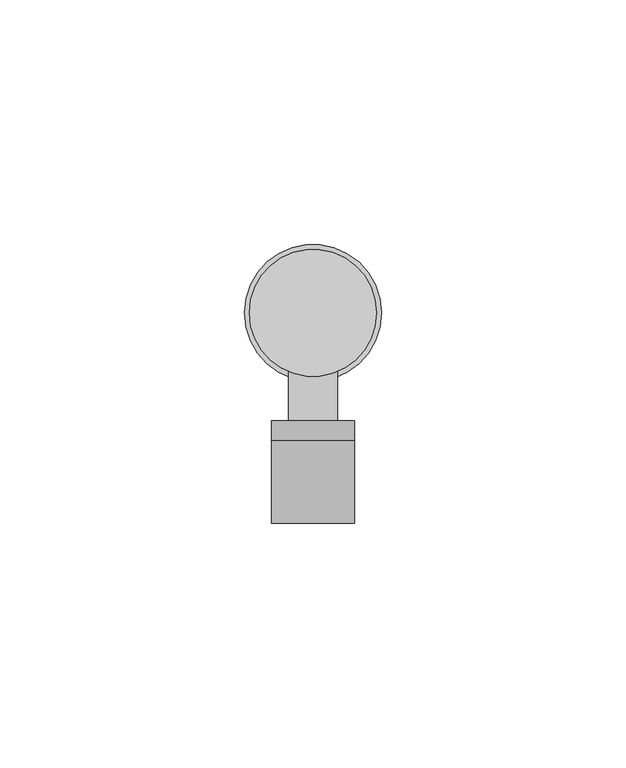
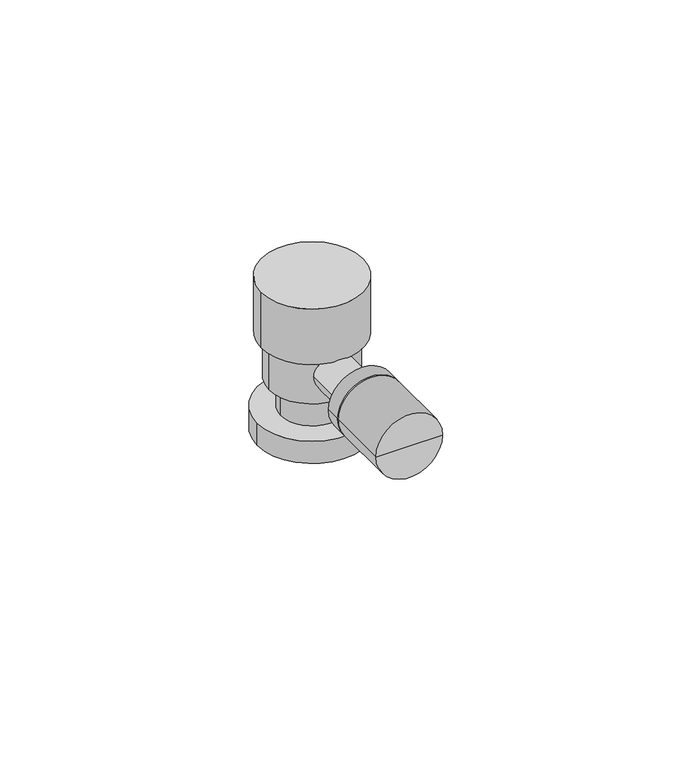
"""IFC4 building model written with IfcOpenShell, lengths in millimetres: pipe fitting geometry, KAN-therm Push podejście do baterii : KAN-therm Push podejście do baterii."""

from ifc_helpers import new_model, si_unit, point, frame, origin, origin_2d, place, context, project, spatial, circle_curve, trimmed, segment, composite_curve, outline, extrude, source, transform, mapped, element, save
from ifc_brep_helpers import plane_surface, cylinder_surface, advanced_brep


def pipe_fitting_cf206414(model_context):
    return source(origin(), model_context, "Body", "SolidModel", [
        advanced_brep(
        [(-8.5, -26.0, 0.0), (8.5, -26.0, 0.0), (0.0, -26.0, 0.0), (-8.5, -22.0, 0.0), (8.5, -22.0, 0.0), (0.0, -22.0, 0.0)],
        [
            (0, 1, circle_curve(frame((0.0, -26.0, 0.0), z_axis=(0.0, -1.0, 0.0), x_axis=(1.0000000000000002, 0.0, 0.0)), 8.5)),
            (1, 2),
            (2, 0),
            (1, 0, circle_curve(frame((0.0, -26.0, 0.0), z_axis=(0.0, -1.0, 0.0), x_axis=(1.0000000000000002, 0.0, 0.0)), 8.5)),
            (3, 4, circle_curve(frame((0.0, -22.0, 0.0), z_axis=(0.0, -1.0, 0.0), x_axis=(1.0000000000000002, 0.0, 0.0)), 8.5)),
            (4, 1),
            (0, 3),
            (4, 3, circle_curve(frame((0.0, -22.0, 0.0), z_axis=(0.0, -1.0, 0.0), x_axis=(1.0000000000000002, 0.0, 0.0)), 8.5)),
            (5, 4),
            (3, 5),
        ],
        [
            plane_surface(frame((0.0, -26.0, 0.0), z_axis=(0.0, -1.0, 0.0), x_axis=(1.0, 0.0, 0.0))),
            cylinder_surface(frame((0.0, -2020.0, 0.0), z_axis=(0.0, 1.0000000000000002, 0.0), x_axis=(1.0000000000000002, 0.0, 0.0)), 8.5),
            plane_surface(frame((0.0, -22.0, 0.0), z_axis=(0.0, 1.0, 0.0), x_axis=(1.0, 0.0, 0.0))),
        ],
        [
            (0, [[1, 2, 3]]),
            (0, [[4, -3, -2]]),
            (1, [[5, 6, -1, 7]]),
            (1, [[8, -7, -4, -6]]),
            (2, [[9, -5, 10]]),
            (2, [[-10, -8, -9]]),
        ],
    ),
        advanced_brep(
        [(-8.5, -43.0, 0.0), (8.5, -43.0, 0.0), (0.0, -43.0, 0.0), (-8.5, -26.0, 0.0), (8.5, -26.0, 0.0), (0.0, -26.0, 0.0)],
        [
            (0, 1, circle_curve(frame((0.0, -43.0, 0.0), z_axis=(0.0, -1.0, 0.0), x_axis=(1.0000000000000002, 0.0, 0.0)), 8.5)),
            (1, 2),
            (2, 0),
            (1, 0, circle_curve(frame((0.0, -43.0, 0.0), z_axis=(0.0, -1.0, 0.0), x_axis=(1.0000000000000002, 0.0, 0.0)), 8.5)),
            (3, 4, circle_curve(frame((0.0, -26.0, 0.0), z_axis=(0.0, -1.0, 0.0), x_axis=(1.0000000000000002, 0.0, 0.0)), 8.5)),
            (4, 1),
            (0, 3),
            (4, 3, circle_curve(frame((0.0, -26.0, 0.0), z_axis=(0.0, -1.0, 0.0), x_axis=(1.0000000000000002, 0.0, 0.0)), 8.5)),
            (5, 4),
            (3, 5),
        ],
        [
            plane_surface(frame((0.0, -43.0, 0.0), z_axis=(0.0, -1.0, 0.0), x_axis=(1.0, 0.0, 0.0))),
            cylinder_surface(frame((0.0, -2020.0, 0.0), z_axis=(0.0, 1.0000000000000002, 0.0), x_axis=(1.0000000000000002, 0.0, 0.0)), 8.5),
            plane_surface(frame((0.0, -26.0, 0.0), z_axis=(0.0, 1.0, 0.0), x_axis=(1.0, 0.0, 0.0))),
        ],
        [
            (0, [[1, 2, 3]]),
            (0, [[4, -3, -2]]),
            (1, [[5, 6, -1, 7]]),
            (1, [[8, -7, -4, -6]]),
            (2, [[9, -5, 10]]),
            (2, [[-10, -8, -9]]),
        ],
    ),
        extrude(outline(composite_curve([segment(trimmed(circle_curve(origin_2d(), 8.0), [point((-8.0, 0.0))], [point((8.0, 0.0))], False, "CARTESIAN"), True, "CONTINUOUS"), segment(trimmed(circle_curve(origin_2d(), 8.0), [point((8.0, 0.0))], [point((-8.0, 0.0))], False, "CARTESIAN"), True, "CONTINUOUS")], self_intersect=False)), frame((0.0, 0.0, -15.0), z_axis=(0.0, 0.0, 1.0), x_axis=(1.0, 0.0, 0.0)), (0.0, 0.0, 1.0), 8.0),
        extrude(outline(composite_curve([segment(trimmed(circle_curve(origin_2d(), 5.0), [point((0.0, -5.0))], [point((0.0, 5.0))], False, "CARTESIAN"), True, "CONTINUOUS"), segment(trimmed(circle_curve(origin_2d(), 5.0), [point((0.0, 5.0))], [point((0.0, -5.0))], False, "CARTESIAN"), True, "CONTINUOUS")], self_intersect=False)), frame((0.0, -26.0, 0.0), z_axis=(0.0, 1.0, 0.0), x_axis=(0.0, 0.0, 1.0)), (0.0, 0.0, 1.0), 26.0),
        extrude(outline(composite_curve([segment(trimmed(circle_curve(origin_2d(), 14.0), [point((-14.0, 0.0))], [point((14.0, 0.0))], False, "CARTESIAN"), True, "CONTINUOUS"), segment(trimmed(circle_curve(origin_2d(), 14.0), [point((14.0, 0.0))], [point((-14.0, 0.0))], False, "CARTESIAN"), True, "CONTINUOUS")], self_intersect=False)), frame((0.0, 0.0, -21.0), z_axis=(0.0, 0.0, 1.0), x_axis=(1.0, 0.0, 0.0)), (0.0, 0.0, 1.0), 6.0),
        extrude(outline(composite_curve([segment(trimmed(circle_curve(origin_2d(), 11.0), [point((-11.0, 0.0))], [point((11.0, 0.0))], False, "CARTESIAN"), True, "CONTINUOUS"), segment(trimmed(circle_curve(origin_2d(), 11.0), [point((11.0, 0.0))], [point((-11.0, 0.0))], False, "CARTESIAN"), True, "CONTINUOUS")], self_intersect=False)), frame((0.0, 0.0, -7.0), z_axis=(0.0, 0.0, 1.0), x_axis=(1.0, 0.0, 0.0)), (0.0, 0.0, 1.0), 15.0),
        extrude(outline(composite_curve([segment(trimmed(circle_curve(origin_2d(), 13.0), [point((-13.0, 0.0))], [point((13.0, 0.0))], False, "CARTESIAN"), True, "CONTINUOUS"), segment(trimmed(circle_curve(origin_2d(), 13.0), [point((13.0, 0.0))], [point((-13.0, 0.0))], False, "CARTESIAN"), True, "CONTINUOUS")], self_intersect=False)), frame((0.0, 0.0, 5.0), z_axis=(0.0, 0.0, 1.0), x_axis=(1.0, 0.0, 0.0)), (0.0, 0.0, 1.0), 15.0),
    ])


if __name__ == "__main__":
    model = new_model("IFC4")
    model_context = context("Model", 3, world=origin())
    ifc_project = project(units=[si_unit("LENGTHUNIT", "METRE", prefix="MILLI")], contexts=[model_context])
    site = spatial("IfcSite", under=ifc_project)
    building = spatial("IfcBuilding", under=site)
    placement = place(None, origin())
    pipe_fitting_shape = pipe_fitting_cf206414(model_context)
    element("IfcPipeFitting", 1, ObjectType="KAN-therm Push podejście do baterii : KAN-therm Push podejście do baterii", at=placement, inside=building, context=model_context, shape_type="MappedRepresentation", body=[
        mapped(pipe_fitting_shape, transform((0.0, 0.0, 0.0), x_axis=(1.0, 0.0, 0.0), y_axis=(0.0, 1.0, 0.0), z_axis=(0.0, 0.0, 1.0))),
    ])
    save(model, "model.ifc")
